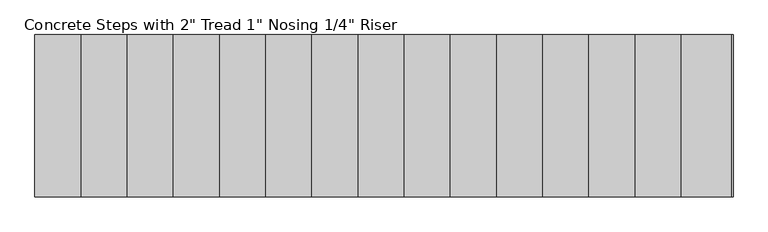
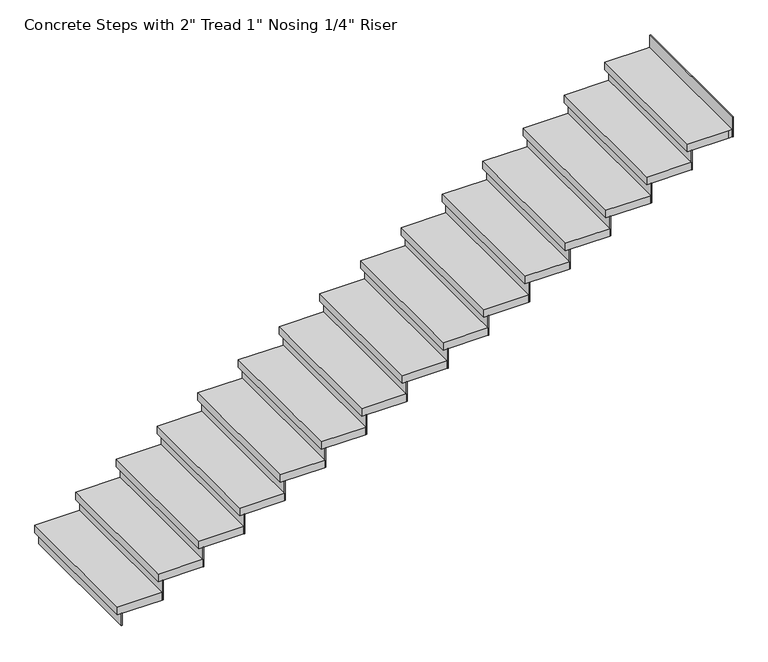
"""IFC4 building model written with IfcOpenShell, lengths in millimetres: stair flight geometry."""

from ifc_helpers import new_model, si_unit, frame, origin, origin_with_axes, place, context, project, spatial, polyline, outline, extrude, source, transform, mapped, element, save


def stair_flight_d492890e(model_context):
    return source(origin(), model_context, "Body", "SweptSolid", [
        extrude(outline(polyline([(1403.4721922, 22874.7406645), (1397.1221922, 22874.7406645), (1397.1221922, 23789.1406645), (1403.4721922, 23789.1406645), (1403.4721922, 22874.7406645)])), origin_with_axes(), (0.0, 0.0, 1.0), 81.7217391),
        extrude(outline(polyline([(1657.4721922, 23789.1406645), (1657.4721922, 22874.7406645), (1371.7221922, 22874.7406645), (1371.7221922, 23789.1406645), (1657.4721922, 23789.1406645)])), frame((0.0, 0.0, 81.7217391), z_axis=(0.0, 0.0, 1.0), x_axis=(1.0, 0.0, 0.0)), (0.0, 0.0, 1.0), 50.8),
        extrude(outline(polyline([(1663.8221922, 22874.7406645), (1657.4721922, 22874.7406645), (1657.4721922, 23789.1406645), (1663.8221922, 23789.1406645), (1663.8221922, 22874.7406645)])), frame((0.0, 0.0, 81.7217391), z_axis=(0.0, 0.0, 1.0), x_axis=(1.0, 0.0, 0.0)), (0.0, 0.0, 1.0), 132.5217391),
        extrude(outline(polyline([(1917.8221922, 23789.1406645), (1917.8221922, 22874.7406645), (1632.0721922, 22874.7406645), (1632.0721922, 23789.1406645), (1917.8221922, 23789.1406645)])), frame((0.0, 0.0, 214.2434783), z_axis=(0.0, 0.0, 1.0), x_axis=(1.0, 0.0, 0.0)), (0.0, 0.0, 1.0), 50.8),
        extrude(outline(polyline([(1924.1721922, 22874.7406645), (1917.8221922, 22874.7406645), (1917.8221922, 23789.1406645), (1924.1721922, 23789.1406645), (1924.1721922, 22874.7406645)])), frame((0.0, 0.0, 214.2434783), z_axis=(0.0, 0.0, 1.0), x_axis=(1.0, 0.0, 0.0)), (0.0, 0.0, 1.0), 132.5217391),
        extrude(outline(polyline([(2178.1721922, 23789.1406645), (2178.1721922, 22874.7406645), (1892.4221922, 22874.7406645), (1892.4221922, 23789.1406645), (2178.1721922, 23789.1406645)])), frame((0.0, 0.0, 346.7652174), z_axis=(0.0, 0.0, 1.0), x_axis=(1.0, 0.0, 0.0)), (0.0, 0.0, 1.0), 50.8),
        extrude(outline(polyline([(2184.5221922, 22874.7406645), (2178.1721922, 22874.7406645), (2178.1721922, 23789.1406645), (2184.5221922, 23789.1406645), (2184.5221922, 22874.7406645)])), frame((0.0, 0.0, 346.7652174), z_axis=(0.0, 0.0, 1.0), x_axis=(1.0, 0.0, 0.0)), (0.0, 0.0, 1.0), 132.5217391),
        extrude(outline(polyline([(2438.5221922, 23789.1406645), (2438.5221922, 22874.7406645), (2152.7721922, 22874.7406645), (2152.7721922, 23789.1406645), (2438.5221922, 23789.1406645)])), frame((0.0, 0.0, 479.2869565), z_axis=(0.0, 0.0, 1.0), x_axis=(1.0, 0.0, 0.0)), (0.0, 0.0, 1.0), 50.8),
        extrude(outline(polyline([(2444.8721922, 22874.7406645), (2438.5221922, 22874.7406645), (2438.5221922, 23789.1406645), (2444.8721922, 23789.1406645), (2444.8721922, 22874.7406645)])), frame((0.0, 0.0, 479.2869565), z_axis=(0.0, 0.0, 1.0), x_axis=(1.0, 0.0, 0.0)), (0.0, 0.0, 1.0), 132.5217391),
        extrude(outline(polyline([(2698.8721922, 23789.1406645), (2698.8721922, 22874.7406645), (2413.1221922, 22874.7406645), (2413.1221922, 23789.1406645), (2698.8721922, 23789.1406645)])), frame((0.0, 0.0, 611.8086957), z_axis=(0.0, 0.0, 1.0), x_axis=(1.0, 0.0, 0.0)), (0.0, 0.0, 1.0), 50.8),
        extrude(outline(polyline([(2705.2221922, 22874.7406645), (2698.8721922, 22874.7406645), (2698.8721922, 23789.1406645), (2705.2221922, 23789.1406645), (2705.2221922, 22874.7406645)])), frame((0.0, 0.0, 611.8086957), z_axis=(0.0, 0.0, 1.0), x_axis=(1.0, 0.0, 0.0)), (0.0, 0.0, 1.0), 132.5217391),
        extrude(outline(polyline([(2959.2221922, 23789.1406645), (2959.2221922, 22874.7406645), (2673.4721922, 22874.7406645), (2673.4721922, 23789.1406645), (2959.2221922, 23789.1406645)])), frame((0.0, 0.0, 744.3304348), z_axis=(0.0, 0.0, 1.0), x_axis=(1.0, 0.0, 0.0)), (0.0, 0.0, 1.0), 50.8),
        extrude(outline(polyline([(2965.5721922, 22874.7406645), (2959.2221922, 22874.7406645), (2959.2221922, 23789.1406645), (2965.5721922, 23789.1406645), (2965.5721922, 22874.7406645)])), frame((0.0, 0.0, 744.3304348), z_axis=(0.0, 0.0, 1.0), x_axis=(1.0, 0.0, 0.0)), (0.0, 0.0, 1.0), 132.5217391),
        extrude(outline(polyline([(3219.5721922, 23789.1406645), (3219.5721922, 22874.7406645), (2933.8221922, 22874.7406645), (2933.8221922, 23789.1406645), (3219.5721922, 23789.1406645)])), frame((0.0, 0.0, 876.8521739), z_axis=(0.0, 0.0, 1.0), x_axis=(1.0, 0.0, 0.0)), (0.0, 0.0, 1.0), 50.8),
        extrude(outline(polyline([(3225.9221922, 22874.7406645), (3219.5721922, 22874.7406645), (3219.5721922, 23789.1406645), (3225.9221922, 23789.1406645), (3225.9221922, 22874.7406645)])), frame((0.0, 0.0, 876.8521739), z_axis=(0.0, 0.0, 1.0), x_axis=(1.0, 0.0, 0.0)), (0.0, 0.0, 1.0), 132.5217391),
        extrude(outline(polyline([(3479.9221922, 23789.1406645), (3479.9221922, 22874.7406645), (3194.1721922, 22874.7406645), (3194.1721922, 23789.1406645), (3479.9221922, 23789.1406645)])), frame((0.0, 0.0, 1009.373913), z_axis=(0.0, 0.0, 1.0), x_axis=(1.0, 0.0, 0.0)), (0.0, 0.0, 1.0), 50.8),
        extrude(outline(polyline([(3486.2721922, 22874.7406645), (3479.9221922, 22874.7406645), (3479.9221922, 23789.1406645), (3486.2721922, 23789.1406645), (3486.2721922, 22874.7406645)])), frame((0.0, 0.0, 1009.373913), z_axis=(0.0, 0.0, 1.0), x_axis=(1.0, 0.0, 0.0)), (0.0, 0.0, 1.0), 132.5217391),
        extrude(outline(polyline([(3740.2721922, 23789.1406645), (3740.2721922, 22874.7406645), (3454.5221922, 22874.7406645), (3454.5221922, 23789.1406645), (3740.2721922, 23789.1406645)])), frame((0.0, 0.0, 1141.8956522), z_axis=(0.0, 0.0, 1.0), x_axis=(1.0, 0.0, 0.0)), (0.0, 0.0, 1.0), 50.8),
        extrude(outline(polyline([(3746.6221922, 22874.7406645), (3740.2721922, 22874.7406645), (3740.2721922, 23789.1406645), (3746.6221922, 23789.1406645), (3746.6221922, 22874.7406645)])), frame((0.0, 0.0, 1141.8956522), z_axis=(0.0, 0.0, 1.0), x_axis=(1.0, 0.0, 0.0)), (0.0, 0.0, 1.0), 132.5217391),
        extrude(outline(polyline([(4000.6221922, 23789.1406645), (4000.6221922, 22874.7406645), (3714.8721922, 22874.7406645), (3714.8721922, 23789.1406645), (4000.6221922, 23789.1406645)])), frame((0.0, 0.0, 1274.4173913), z_axis=(0.0, 0.0, 1.0), x_axis=(1.0, 0.0, 0.0)), (0.0, 0.0, 1.0), 50.8),
        extrude(outline(polyline([(4006.9721922, 22874.7406645), (4000.6221922, 22874.7406645), (4000.6221922, 23789.1406645), (4006.9721922, 23789.1406645), (4006.9721922, 22874.7406645)])), frame((0.0, 0.0, 1274.4173913), z_axis=(0.0, 0.0, 1.0), x_axis=(1.0, 0.0, 0.0)), (0.0, 0.0, 1.0), 132.5217391),
        extrude(outline(polyline([(4260.9721922, 23789.1406645), (4260.9721922, 22874.7406645), (3975.2221922, 22874.7406645), (3975.2221922, 23789.1406645), (4260.9721922, 23789.1406645)])), frame((0.0, 0.0, 1406.9391304), z_axis=(0.0, 0.0, 1.0), x_axis=(1.0, 0.0, 0.0)), (0.0, 0.0, 1.0), 50.8),
        extrude(outline(polyline([(4267.3221922, 22874.7406645), (4260.9721922, 22874.7406645), (4260.9721922, 23789.1406645), (4267.3221922, 23789.1406645), (4267.3221922, 22874.7406645)])), frame((0.0, 0.0, 1406.9391304), z_axis=(0.0, 0.0, 1.0), x_axis=(1.0, 0.0, 0.0)), (0.0, 0.0, 1.0), 132.5217391),
        extrude(outline(polyline([(4521.3221922, 23789.1406645), (4521.3221922, 22874.7406645), (4235.5721922, 22874.7406645), (4235.5721922, 23789.1406645), (4521.3221922, 23789.1406645)])), frame((0.0, 0.0, 1539.4608696), z_axis=(0.0, 0.0, 1.0), x_axis=(1.0, 0.0, 0.0)), (0.0, 0.0, 1.0), 50.8),
        extrude(outline(polyline([(4527.6721922, 22874.7406645), (4521.3221922, 22874.7406645), (4521.3221922, 23789.1406645), (4527.6721922, 23789.1406645), (4527.6721922, 22874.7406645)])), frame((0.0, 0.0, 1539.4608696), z_axis=(0.0, 0.0, 1.0), x_axis=(1.0, 0.0, 0.0)), (0.0, 0.0, 1.0), 132.5217391),
        extrude(outline(polyline([(4781.6721922, 23789.1406645), (4781.6721922, 22874.7406645), (4495.9221922, 22874.7406645), (4495.9221922, 23789.1406645), (4781.6721922, 23789.1406645)])), frame((0.0, 0.0, 1671.9826087), z_axis=(0.0, 0.0, 1.0), x_axis=(1.0, 0.0, 0.0)), (0.0, 0.0, 1.0), 50.8),
        extrude(outline(polyline([(4788.0221922, 22874.7406645), (4781.6721922, 22874.7406645), (4781.6721922, 23789.1406645), (4788.0221922, 23789.1406645), (4788.0221922, 22874.7406645)])), frame((0.0, 0.0, 1671.9826087), z_axis=(0.0, 0.0, 1.0), x_axis=(1.0, 0.0, 0.0)), (0.0, 0.0, 1.0), 132.5217391),
        extrude(outline(polyline([(5042.0221922, 23789.1406645), (5042.0221922, 22874.7406645), (4756.2721922, 22874.7406645), (4756.2721922, 23789.1406645), (5042.0221922, 23789.1406645)])), frame((0.0, 0.0, 1804.5043478), z_axis=(0.0, 0.0, 1.0), x_axis=(1.0, 0.0, 0.0)), (0.0, 0.0, 1.0), 50.8),
        extrude(outline(polyline([(5308.7221922, 22874.7406645), (5302.3721922, 22874.7406645), (5302.3721922, 23789.1406645), (5308.7221922, 23789.1406645), (5308.7221922, 22874.7406645)])), frame((0.0, 0.0, 1937.026087), z_axis=(0.0, 0.0, 1.0), x_axis=(1.0, 0.0, 0.0)), (0.0, 0.0, 1.0), 132.5217391),
        extrude(outline(polyline([(5048.3721922, 22874.7406645), (5042.0221922, 22874.7406645), (5042.0221922, 23789.1406645), (5048.3721922, 23789.1406645), (5048.3721922, 22874.7406645)])), frame((0.0, 0.0, 1804.5043478), z_axis=(0.0, 0.0, 1.0), x_axis=(1.0, 0.0, 0.0)), (0.0, 0.0, 1.0), 132.5217391),
        extrude(outline(polyline([(5302.3721922, 23789.1406645), (5302.3721922, 22874.7406645), (5276.9721922, 22874.7406645), (5016.6221922, 22874.7406645), (5016.6221922, 23789.1406645), (5276.9721922, 23789.1406645), (5302.3721922, 23789.1406645)])), frame((0.0, 0.0, 1937.026087), z_axis=(0.0, 0.0, 1.0), x_axis=(1.0, 0.0, 0.0)), (0.0, 0.0, 1.0), 50.8),
    ])


if __name__ == "__main__":
    model = new_model("IFC4")
    model_context = context("Model", 3, world=origin())
    ifc_project = project(units=[si_unit("LENGTHUNIT", "METRE", prefix="MILLI")], contexts=[model_context])
    site = spatial("IfcSite", under=ifc_project)
    building = spatial("IfcBuilding", under=site)
    placement = place(None, origin())
    stair_flight_shape = stair_flight_d492890e(model_context)
    element("IfcStairFlight", 1, ObjectType="Concrete Steps with 2\" Tread 1\" Nosing 1/4\" Riser", at=placement, inside=building, context=model_context, shape_type="MappedRepresentation", body=[
        mapped(stair_flight_shape, transform((0.0, 0.0, 0.0), x_axis=(1.0, 0.0, 0.0), y_axis=(0.0, 1.0, 0.0), z_axis=(0.0, 0.0, 1.0))),
    ])
    save(model, "model.ifc")
